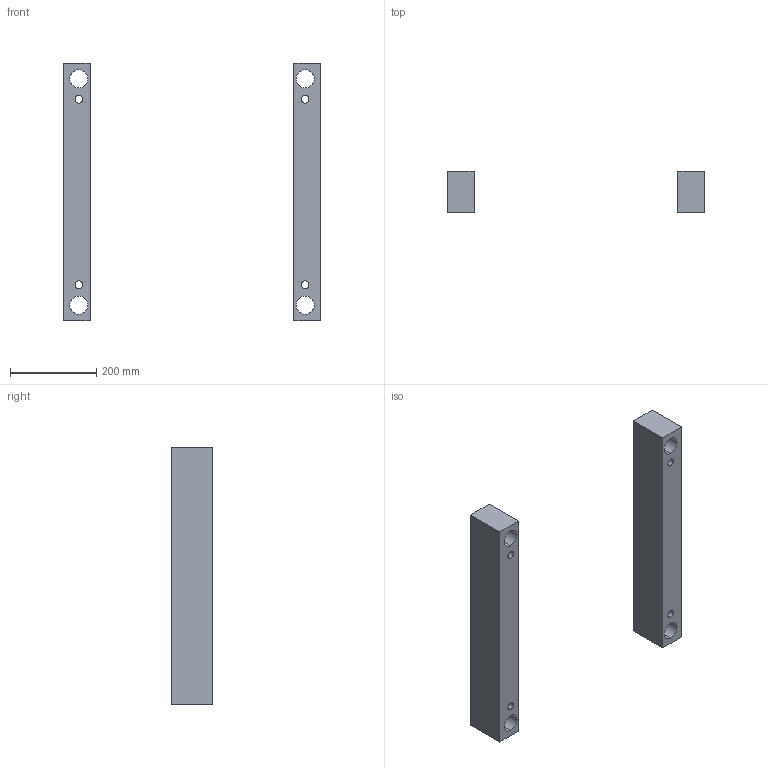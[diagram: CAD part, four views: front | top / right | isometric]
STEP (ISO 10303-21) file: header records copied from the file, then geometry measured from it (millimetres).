
FILE_DESCRIPTION (( 'STEP AP214' ), '1' );
FILE_NAME ('L50_596x596x096.STEP', '2018-10-05T18:59:21', ( '' ), ( '' ), 'SwSTEP 2.0', 'SolidWorks 2014', '' );
FILE_SCHEMA (( 'AUTOMOTIVE_DESIGN' ));
Length unit declared in the file: millimetre
Products named in the file (1): L50_596x596x096
Bounding box: 596 x 96 x 596 mm (x, y, z)
Volume: 6465058 mm3; surface area: 459743 mm2
Topology: 2 solids, 2 shells, 28 faces, 72 edges, 48 vertices
Faces by surface type: cylinder 16, plane 12
Entity records: 943 total; most frequent: DIRECTION 162, CARTESIAN_POINT 149, ORIENTED_EDGE 144, EDGE_CURVE 72, AXIS2_PLACEMENT_3D 61, VERTEX_POINT 48, EDGE_LOOP 44, LINE 40
